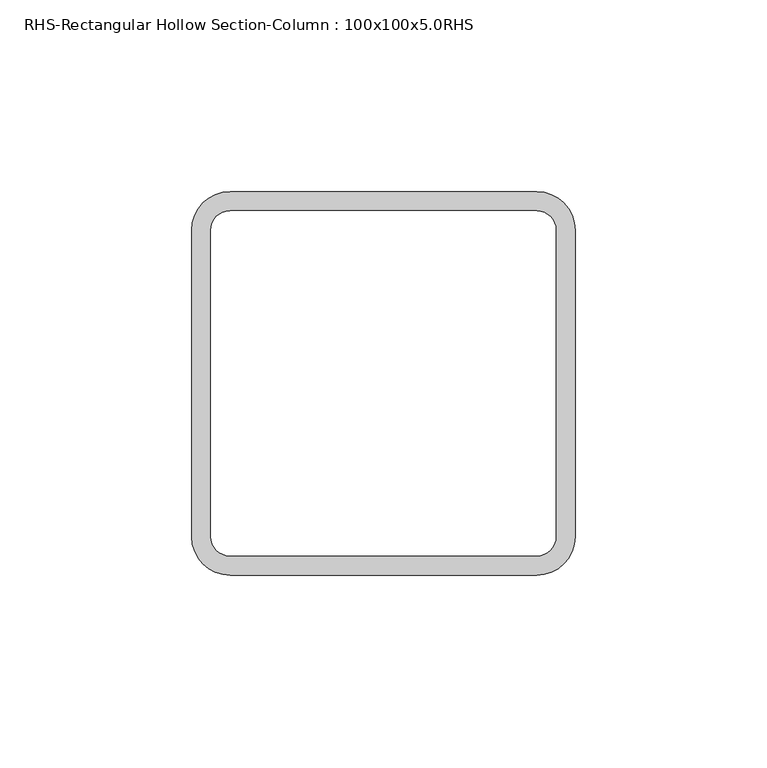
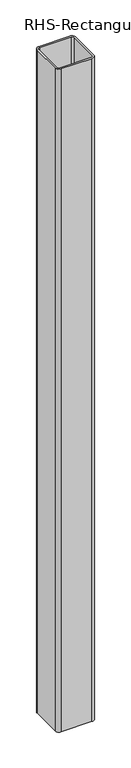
"""IFC4 building model written with IfcOpenShell, lengths in millimetres: column geometry, RHS-Rectangular Hollow Section-Column : 100x100x5.0RHS."""

from ifc_helpers import new_model, si_unit, point, frame, frame_2d, origin, place, context, project, spatial, polyline, circle_curve, trimmed, segment, composite_curve, outline, extrude, source, transform, mapped, element, save


def rhs_rectangular_hollow_section_column_100x100x5_0rhs_ce2d9d36(model_context):
    return source(origin(), model_context, "Body", "SweptSolid", [
        extrude(outline(composite_curve([segment(polyline([(40.0, -50.0), (-40.0, -50.0)]), True, "CONTINUOUS"), segment(trimmed(circle_curve(frame_2d((-40.0, -40.0)), 10.0), [point((-40.0, -50.0))], [point((-50.0, -40.0))], False, "CARTESIAN"), True, "CONTINUOUS"), segment(polyline([(-50.0, -40.0), (-50.0, 40.0)]), True, "CONTINUOUS"), segment(trimmed(circle_curve(frame_2d((-40.0, 40.0)), 10.0), [point((-50.0, 40.0))], [point((-40.0, 50.0))], False, "CARTESIAN"), True, "CONTINUOUS"), segment(polyline([(-40.0, 50.0), (40.0, 50.0)]), True, "CONTINUOUS"), segment(trimmed(circle_curve(frame_2d((40.0, 40.0)), 10.0), [point((40.0, 50.0))], [point((50.0, 40.0))], False, "CARTESIAN"), True, "CONTINUOUS"), segment(polyline([(50.0, 40.0), (50.0, -40.0)]), True, "CONTINUOUS"), segment(trimmed(circle_curve(frame_2d((40.0, -40.0)), 10.0), [point((50.0, -40.0))], [point((40.0, -50.0))], False, "CARTESIAN"), True, "CONTINUOUS")], self_intersect=False), holes=[composite_curve([segment(trimmed(circle_curve(frame_2d((40.0, -40.0)), 5.0), [point((40.0, -45.0))], [point((45.0, -40.0))], True, "CARTESIAN"), True, "CONTINUOUS"), segment(polyline([(45.0, -40.0), (45.0, 40.0)]), True, "CONTINUOUS"), segment(trimmed(circle_curve(frame_2d((40.0, 40.0)), 5.0), [point((45.0, 40.0))], [point((40.0, 45.0))], True, "CARTESIAN"), True, "CONTINUOUS"), segment(polyline([(40.0, 45.0), (-40.0, 45.0)]), True, "CONTINUOUS"), segment(trimmed(circle_curve(frame_2d((-40.0, 40.0)), 5.0), [point((-40.0, 45.0))], [point((-45.0, 40.0))], True, "CARTESIAN"), True, "CONTINUOUS"), segment(polyline([(-45.0, 40.0), (-45.0, -40.0)]), True, "CONTINUOUS"), segment(trimmed(circle_curve(frame_2d((-40.0, -40.0)), 5.0), [point((-45.0, -40.0))], [point((-40.0, -45.0))], True, "CARTESIAN"), True, "CONTINUOUS"), segment(polyline([(-40.0, -45.0), (40.0, -45.0)]), True, "CONTINUOUS")], self_intersect=False)]), frame((0.0, 0.0, 22110.0), z_axis=(0.0, 0.0, 1.0), x_axis=(1.0, 0.0, 0.0)), (0.0, 0.0, 1.0), 1800.0),
    ])


if __name__ == "__main__":
    model = new_model("IFC4")
    model_context = context("Model", 3, world=origin())
    ifc_project = project(units=[si_unit("LENGTHUNIT", "METRE", prefix="MILLI")], contexts=[model_context])
    site = spatial("IfcSite", under=ifc_project)
    building = spatial("IfcBuilding", under=site)
    placement = place(None, origin())
    rhs_rectangular_hollow_section_column_100x100x5_0rhs_shape = rhs_rectangular_hollow_section_column_100x100x5_0rhs_ce2d9d36(model_context)
    element("IfcColumn", 1, ObjectType="RHS-Rectangular Hollow Section-Column : 100x100x5.0RHS", at=placement, inside=building, context=model_context, shape_type="MappedRepresentation", body=[
        mapped(rhs_rectangular_hollow_section_column_100x100x5_0rhs_shape, transform((0.0, 0.0, 0.0), x_axis=(1.0, 0.0, 0.0), y_axis=(0.0, 1.0, 0.0), z_axis=(0.0, 0.0, 1.0))),
    ])
    save(model, "model.ifc")
